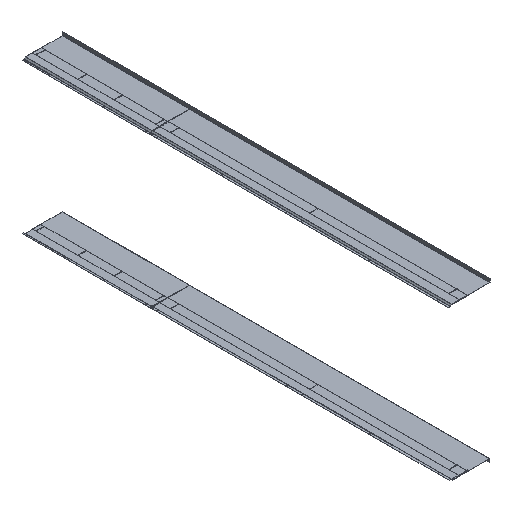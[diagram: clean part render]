
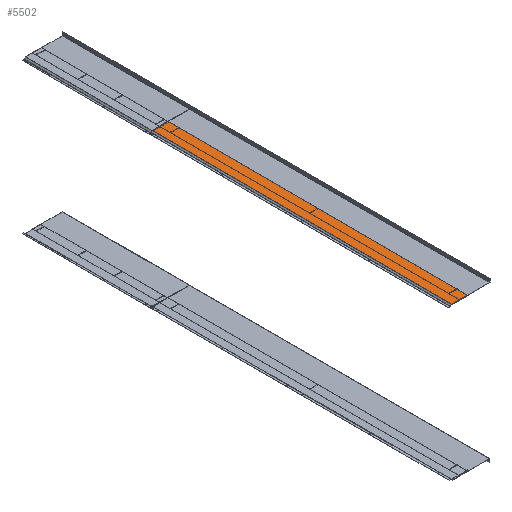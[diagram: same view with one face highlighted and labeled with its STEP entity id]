
A CAD part, isometric view. The second image highlights one B-rep face of the part: STEP entity #5502.
In plain terms, the highlighted planar face has unit normal (0, 0, 1).
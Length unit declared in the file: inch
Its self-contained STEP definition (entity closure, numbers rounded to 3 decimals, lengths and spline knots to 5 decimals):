
#16 = VERTEX_POINT ( 'NONE', #1750 ) ;
#161 = AXIS2_PLACEMENT_3D ( 'NONE', #5760, #5753, #5741 ) ;
#245 = VERTEX_POINT ( 'NONE', #4055 ) ;
#256 = CARTESIAN_POINT ( 'NONE',  ( 2.31698, 3., 0.038 ) ) ;
#395 = DIRECTION ( 'NONE',  ( 0., 0., -1. ) ) ;
#400 = ORIENTED_EDGE ( 'NONE', *, *, #3320, .F. ) ;
#409 = PLANE ( 'NONE',  #513 ) ;
#455 = AXIS2_PLACEMENT_3D ( 'NONE', #6177, #6171, #6162 ) ;
#477 = AXIS2_PLACEMENT_3D ( 'NONE', #6323, #6327, #6335 ) ;
#479 = VERTEX_POINT ( 'NONE', #2149 ) ;
#513 = AXIS2_PLACEMENT_3D ( 'NONE', #5023, #395, #5320 ) ;
#781 = LINE ( 'NONE', #1996, #1142 ) ;
#835 = EDGE_CURVE ( 'NONE', #5780, #6561, #5359, .T. ) ;
#877 = AXIS2_PLACEMENT_3D ( 'NONE', #3994, #3617, #3594 ) ;
#995 = DIRECTION ( 'NONE',  ( 1., 0., 0. ) ) ;
#1004 = DIRECTION ( 'NONE',  ( 0., 0., -1. ) ) ;
#1025 = CARTESIAN_POINT ( 'NONE',  ( 2.22323, 80.8515, 0.038 ) ) ;
#1142 = VECTOR ( 'NONE', #1985, 39.37008 ) ;
#1153 = CIRCLE ( 'NONE', #477, 0.09375 ) ;
#1348 = ORIENTED_EDGE ( 'NONE', *, *, #3647, .T. ) ;
#1403 = EDGE_CURVE ( 'NONE', #245, #16, #4312, .T. ) ;
#1413 = AXIS2_PLACEMENT_3D ( 'NONE', #1025, #1004, #995 ) ;
#1750 = CARTESIAN_POINT ( 'NONE',  ( 0.19646, 0., 0.038 ) ) ;
#1985 = DIRECTION ( 'NONE',  ( 1., 0., 0. ) ) ;
#1996 = CARTESIAN_POINT ( 'NONE',  ( 0., 83.8515, 0.038 ) ) ;
#2035 = VERTEX_POINT ( 'NONE', #5912 ) ;
#2149 = CARTESIAN_POINT ( 'NONE',  ( 4.375, 83.8515, 0.038 ) ) ;
#2180 = ORIENTED_EDGE ( 'NONE', *, *, #5725, .T. ) ;
#2187 = CARTESIAN_POINT ( 'NONE',  ( 2.12948, 80.8515, 0.038 ) ) ;
#2200 = EDGE_LOOP ( 'NONE', ( #6797, #2785 ) ) ;
#2278 = VECTOR ( 'NONE', #6022, 39.37008 ) ;
#2320 = VECTOR ( 'NONE', #3872, 39.37008 ) ;
#2345 = LINE ( 'NONE', #3900, #2320 ) ;
#2422 = VECTOR ( 'NONE', #4175, 39.37008 ) ;
#2428 = LINE ( 'NONE', #4212, #2422 ) ;
#2454 = CARTESIAN_POINT ( 'NONE',  ( 2.12948, 41.92575, 0.038 ) ) ;
#2689 = EDGE_CURVE ( 'NONE', #5231, #2739, #2428, .T. ) ;
#2733 = EDGE_CURVE ( 'NONE', #2035, #2739, #2345, .T. ) ;
#2738 = VECTOR ( 'NONE', #6296, 39.37008 ) ;
#2739 = VERTEX_POINT ( 'NONE', #3846 ) ;
#2778 = CARTESIAN_POINT ( 'NONE',  ( 2.31698, 41.92575, 0.038 ) ) ;
#2785 = ORIENTED_EDGE ( 'NONE', *, *, #5639, .T. ) ;
#2949 = VERTEX_POINT ( 'NONE', #3118 ) ;
#2991 = ORIENTED_EDGE ( 'NONE', *, *, #5693, .F. ) ;
#3087 = AXIS2_PLACEMENT_3D ( 'NONE', #3239, #3525, #3513 ) ;
#3110 = CIRCLE ( 'NONE', #455, 0.09375 ) ;
#3118 = CARTESIAN_POINT ( 'NONE',  ( 2.31698, 80.8515, 0.038 ) ) ;
#3239 = CARTESIAN_POINT ( 'NONE',  ( 2.22323, 41.92575, 0.038 ) ) ;
#3263 = LINE ( 'NONE', #6152, #2738 ) ;
#3298 = ORIENTED_EDGE ( 'NONE', *, *, #4524, .T. ) ;
#3320 = EDGE_CURVE ( 'NONE', #5231, #479, #781, .T. ) ;
#3336 = FACE_BOUND ( 'NONE', #2200, .T. ) ;
#3513 = DIRECTION ( 'NONE',  ( 1., 0., 0. ) ) ;
#3525 = DIRECTION ( 'NONE',  ( 0., 0., -1. ) ) ;
#3594 = DIRECTION ( 'NONE',  ( 1., 0., 0. ) ) ;
#3617 = DIRECTION ( 'NONE',  ( 0., 0., -1. ) ) ;
#3647 = EDGE_CURVE ( 'NONE', #2949, #4323, #5713, .T. ) ;
#3759 = EDGE_LOOP ( 'NONE', ( #3298, #2180 ) ) ;
#3840 = CIRCLE ( 'NONE', #877, 0.09375 ) ;
#3846 = CARTESIAN_POINT ( 'NONE',  ( 0.07146, 83.8515, 0.038 ) ) ;
#3872 = DIRECTION ( 'NONE',  ( 0., 1., 0. ) ) ;
#3900 = CARTESIAN_POINT ( 'NONE',  ( 0.07146, 83.8515, 0.038 ) ) ;
#3994 = CARTESIAN_POINT ( 'NONE',  ( 2.22323, 3., 0.038 ) ) ;
#4055 = CARTESIAN_POINT ( 'NONE',  ( 4.375, 0., 0.038 ) ) ;
#4076 = CARTESIAN_POINT ( 'NONE',  ( 2.12948, 3., 0.038 ) ) ;
#4175 = DIRECTION ( 'NONE',  ( -1., 0., 0. ) ) ;
#4212 = CARTESIAN_POINT ( 'NONE',  ( 0.07146, 83.8515, 0.038 ) ) ;
#4305 = VECTOR ( 'NONE', #5367, 39.37008 ) ;
#4312 = LINE ( 'NONE', #5352, #4305 ) ;
#4323 = VERTEX_POINT ( 'NONE', #2187 ) ;
#4524 = EDGE_CURVE ( 'NONE', #5338, #6465, #3840, .T. ) ;
#4582 = ORIENTED_EDGE ( 'NONE', *, *, #2689, .T. ) ;
#4636 = FACE_OUTER_BOUND ( 'NONE', #4736, .T. ) ;
#4736 = EDGE_LOOP ( 'NONE', ( #2991, #4929, #6039, #400, #4582, #4950 ) ) ;
#4909 = EDGE_LOOP ( 'NONE', ( #1348, #6109 ) ) ;
#4929 = ORIENTED_EDGE ( 'NONE', *, *, #1403, .F. ) ;
#4950 = ORIENTED_EDGE ( 'NONE', *, *, #2733, .F. ) ;
#5023 = CARTESIAN_POINT ( 'NONE',  ( 0., 83.8515, 0.038 ) ) ;
#5219 = FACE_BOUND ( 'NONE', #3759, .T. ) ;
#5231 = VERTEX_POINT ( 'NONE', #6684 ) ;
#5320 = DIRECTION ( 'NONE',  ( -1., 0., 0. ) ) ;
#5331 = LINE ( 'NONE', #6052, #2278 ) ;
#5338 = VERTEX_POINT ( 'NONE', #256 ) ;
#5352 = CARTESIAN_POINT ( 'NONE',  ( 0., 0., 0.038 ) ) ;
#5356 = FACE_BOUND ( 'NONE', #4909, .T. ) ;
#5359 = CIRCLE ( 'NONE', #3087, 0.09375 ) ;
#5367 = DIRECTION ( 'NONE',  ( -1., 0., 0. ) ) ;
#5502 = ADVANCED_FACE ( 'NONE', ( #4636, #5356, #5219, #3336 ), #409, .F. ) ;
#5552 = EDGE_CURVE ( 'NONE', #245, #479, #5331, .T. ) ;
#5639 = EDGE_CURVE ( 'NONE', #6561, #5780, #1153, .T. ) ;
#5693 = EDGE_CURVE ( 'NONE', #16, #2035, #3263, .T. ) ;
#5713 = CIRCLE ( 'NONE', #1413, 0.09375 ) ;
#5725 = EDGE_CURVE ( 'NONE', #6465, #5338, #3110, .T. ) ;
#5741 = DIRECTION ( 'NONE',  ( 1., 0., 0. ) ) ;
#5753 = DIRECTION ( 'NONE',  ( 0., 0., -1. ) ) ;
#5760 = CARTESIAN_POINT ( 'NONE',  ( 2.22323, 80.8515, 0.038 ) ) ;
#5780 = VERTEX_POINT ( 'NONE', #2778 ) ;
#5912 = CARTESIAN_POINT ( 'NONE',  ( 0.07146, 0., 0.038 ) ) ;
#6022 = DIRECTION ( 'NONE',  ( 0., 1., 0. ) ) ;
#6039 = ORIENTED_EDGE ( 'NONE', *, *, #5552, .T. ) ;
#6052 = CARTESIAN_POINT ( 'NONE',  ( 4.375, 0., 0.038 ) ) ;
#6109 = ORIENTED_EDGE ( 'NONE', *, *, #6677, .T. ) ;
#6152 = CARTESIAN_POINT ( 'NONE',  ( 0.07146, 0., 0.038 ) ) ;
#6162 = DIRECTION ( 'NONE',  ( 1., 0., 0. ) ) ;
#6171 = DIRECTION ( 'NONE',  ( 0., 0., -1. ) ) ;
#6177 = CARTESIAN_POINT ( 'NONE',  ( 2.22323, 3., 0.038 ) ) ;
#6296 = DIRECTION ( 'NONE',  ( -1., 0., 0. ) ) ;
#6323 = CARTESIAN_POINT ( 'NONE',  ( 2.22323, 41.92575, 0.038 ) ) ;
#6327 = DIRECTION ( 'NONE',  ( 0., 0., -1. ) ) ;
#6335 = DIRECTION ( 'NONE',  ( 1., 0., 0. ) ) ;
#6465 = VERTEX_POINT ( 'NONE', #4076 ) ;
#6503 = CIRCLE ( 'NONE', #161, 0.09375 ) ;
#6561 = VERTEX_POINT ( 'NONE', #2454 ) ;
#6677 = EDGE_CURVE ( 'NONE', #4323, #2949, #6503, .T. ) ;
#6684 = CARTESIAN_POINT ( 'NONE',  ( 0.19646, 83.8515, 0.038 ) ) ;
#6797 = ORIENTED_EDGE ( 'NONE', *, *, #835, .T. ) ;
